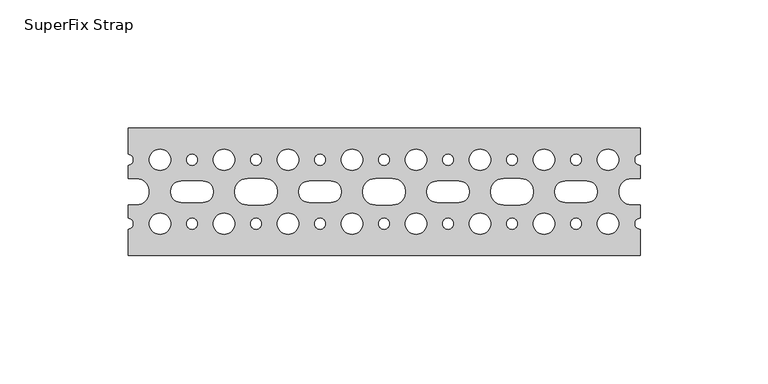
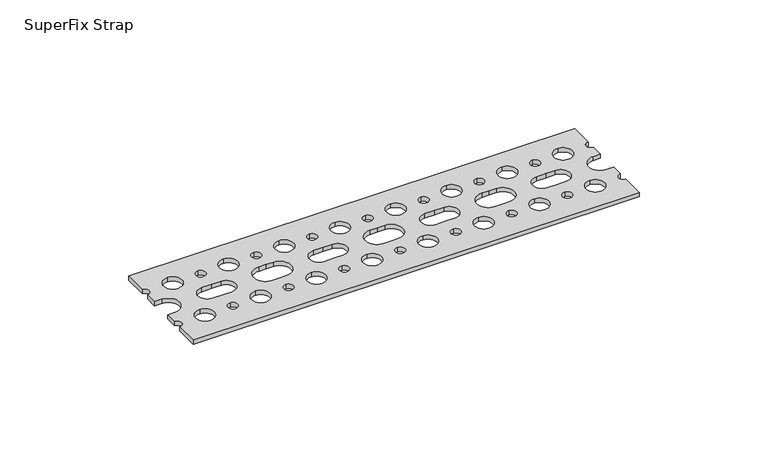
"""IFC4 building model written with IfcOpenShell, lengths in millimetres: valve geometry, Superfix Strap : SuperFix Strap."""

from ifc_helpers import new_model, si_unit, point, frame_2d, origin, origin_with_axes, place, context, project, spatial, polyline, circle_curve, trimmed, segment, composite_curve, outline, extrude, source, transform, mapped, element, save


def superfix_strap_981cfdac(model_context):
    return source(origin(), model_context, "Body", "SweptSolid", [
        extrude(outline(composite_curve([segment(polyline([(100.0, -25.0), (-100.0, -25.0), (-100.0, -14.65)]), True, "CONTINUOUS"), segment(trimmed(circle_curve(frame_2d((-100.0, -12.5)), 2.15), [point((-100.0, -14.65))], [point((-100.0, -10.35))], True, "CARTESIAN"), True, "CONTINUOUS"), segment(polyline([(-100.0, -10.35), (-100.0, -5.15), (-96.75, -5.15)]), True, "CONTINUOUS"), segment(trimmed(circle_curve(frame_2d((-96.75, 0.0)), 5.15), [point((-96.75, -5.15))], [point((-96.75, 5.15))], True, "CARTESIAN"), True, "CONTINUOUS"), segment(polyline([(-96.75, 5.15), (-100.0, 5.15), (-100.0, 10.35)]), True, "CONTINUOUS"), segment(trimmed(circle_curve(frame_2d((-100.0, 12.5)), 2.15), [point((-100.0, 10.35))], [point((-100.0, 14.65))], True, "CARTESIAN"), True, "CONTINUOUS"), segment(polyline([(-100.0, 14.65), (-100.0, 25.0), (100.0, 25.0), (100.0, 14.65)]), True, "CONTINUOUS"), segment(trimmed(circle_curve(frame_2d((100.0, 12.5)), 2.15), [point((100.0, 14.65))], [point((100.0, 10.35))], True, "CARTESIAN"), True, "CONTINUOUS"), segment(polyline([(100.0, 10.35), (100.0, 5.15), (96.75, 5.15)]), True, "CONTINUOUS"), segment(trimmed(circle_curve(frame_2d((96.75, 0.0)), 5.15), [point((96.75, 5.15))], [point((96.75, -5.15))], True, "CARTESIAN"), True, "CONTINUOUS"), segment(polyline([(96.75, -5.15), (100.0, -5.15), (100.0, -10.35)]), True, "CONTINUOUS"), segment(trimmed(circle_curve(frame_2d((100.0, -12.5)), 2.15), [point((100.0, -10.35))], [point((100.0, -14.65))], True, "CARTESIAN"), True, "CONTINUOUS"), segment(polyline([(100.0, -14.65), (100.0, -25.0)]), True, "CONTINUOUS")], self_intersect=False), holes=[composite_curve([segment(polyline([(25.0, 4.15), (20.75, 4.15)]), True, "CONTINUOUS"), segment(trimmed(circle_curve(frame_2d((20.75, 0.0)), 4.15), [point((20.75, 4.15))], [point((20.75, -4.15))], True, "CARTESIAN"), True, "CONTINUOUS"), segment(polyline([(20.75, -4.15), (25.0, -4.15), (29.25, -4.15)]), True, "CONTINUOUS"), segment(trimmed(circle_curve(frame_2d((29.25, 0.0)), 4.15), [point((29.25, -4.15))], [point((29.25, 4.15))], True, "CARTESIAN"), True, "CONTINUOUS"), segment(polyline([(29.25, 4.15), (25.0, 4.15)]), True, "CONTINUOUS")], self_intersect=False), composite_curve([segment(polyline([(0.0, 5.15), (-3.25, 5.15)]), True, "CONTINUOUS"), segment(trimmed(circle_curve(frame_2d((-3.25, 0.0)), 5.15), [point((-3.25, 5.15))], [point((-3.25, -5.15))], True, "CARTESIAN"), True, "CONTINUOUS"), segment(polyline([(-3.25, -5.15), (0.0, -5.15), (3.25, -5.15)]), True, "CONTINUOUS"), segment(trimmed(circle_curve(frame_2d((3.25, 0.0)), 5.15), [point((3.25, -5.15))], [point((3.25, 5.15))], True, "CARTESIAN"), True, "CONTINUOUS"), segment(polyline([(3.25, 5.15), (0.0, 5.15)]), True, "CONTINUOUS")], self_intersect=False), composite_curve([segment(trimmed(circle_curve(frame_2d((0.0, 12.5)), 2.15), [point((0.0, 14.65))], [point((0.0, 10.35))], True, "CARTESIAN"), True, "CONTINUOUS"), segment(trimmed(circle_curve(frame_2d((0.0, 12.5)), 2.15), [point((0.0, 10.35))], [point((0.0, 14.65))], True, "CARTESIAN"), True, "CONTINUOUS")], self_intersect=False), composite_curve([segment(trimmed(circle_curve(frame_2d((25.0, 12.5)), 2.15), [point((25.0, 14.65))], [point((25.0, 10.35))], True, "CARTESIAN"), True, "CONTINUOUS"), segment(trimmed(circle_curve(frame_2d((25.0, 12.5)), 2.15), [point((25.0, 10.35))], [point((25.0, 14.65))], True, "CARTESIAN"), True, "CONTINUOUS")], self_intersect=False), composite_curve([segment(trimmed(circle_curve(frame_2d((25.0, -12.5)), 2.15), [point((25.0, -10.35))], [point((25.0, -14.65))], True, "CARTESIAN"), True, "CONTINUOUS"), segment(trimmed(circle_curve(frame_2d((25.0, -12.5)), 2.15), [point((25.0, -14.65))], [point((25.0, -10.35))], True, "CARTESIAN"), True, "CONTINUOUS")], self_intersect=False), composite_curve([segment(trimmed(circle_curve(frame_2d((0.0, -12.5)), 2.15), [point((0.0, -10.35))], [point((0.0, -14.65))], True, "CARTESIAN"), True, "CONTINUOUS"), segment(trimmed(circle_curve(frame_2d((0.0, -12.5)), 2.15), [point((0.0, -14.65))], [point((0.0, -10.35))], True, "CARTESIAN"), True, "CONTINUOUS")], self_intersect=False), composite_curve([segment(trimmed(circle_curve(frame_2d((12.5, 12.5)), 4.15), [point((12.5, 16.65))], [point((12.5, 8.35))], True, "CARTESIAN"), True, "CONTINUOUS"), segment(trimmed(circle_curve(frame_2d((12.5, 12.5)), 4.15), [point((12.5, 8.35))], [point((12.5, 16.65))], True, "CARTESIAN"), True, "CONTINUOUS")], self_intersect=False), composite_curve([segment(trimmed(circle_curve(frame_2d((12.5, -12.5)), 4.15), [point((12.5, -8.35))], [point((12.5, -16.65))], True, "CARTESIAN"), True, "CONTINUOUS"), segment(trimmed(circle_curve(frame_2d((12.5, -12.5)), 4.15), [point((12.5, -16.65))], [point((12.5, -8.35))], True, "CARTESIAN"), True, "CONTINUOUS")], self_intersect=False), composite_curve([segment(trimmed(circle_curve(frame_2d((37.5, 12.5)), 4.15), [point((37.5, 16.65))], [point((37.5, 8.35))], True, "CARTESIAN"), True, "CONTINUOUS"), segment(trimmed(circle_curve(frame_2d((37.5, 12.5)), 4.15), [point((37.5, 8.35))], [point((37.5, 16.65))], True, "CARTESIAN"), True, "CONTINUOUS")], self_intersect=False), composite_curve([segment(trimmed(circle_curve(frame_2d((37.5, -12.5)), 4.15), [point((37.5, -8.35))], [point((37.5, -16.65))], True, "CARTESIAN"), True, "CONTINUOUS"), segment(trimmed(circle_curve(frame_2d((37.5, -12.5)), 4.15), [point((37.5, -16.65))], [point((37.5, -8.35))], True, "CARTESIAN"), True, "CONTINUOUS")], self_intersect=False), composite_curve([segment(trimmed(circle_curve(frame_2d((-20.75, 0.0)), 4.15), [point((-20.75, -4.15))], [point((-20.75, 4.15))], True, "CARTESIAN"), True, "CONTINUOUS"), segment(polyline([(-20.75, 4.15), (-25.0, 4.15), (-29.25, 4.15)]), True, "CONTINUOUS"), segment(trimmed(circle_curve(frame_2d((-29.25, 0.0)), 4.15), [point((-29.25, 4.15))], [point((-29.25, -4.15))], True, "CARTESIAN"), True, "CONTINUOUS"), segment(polyline([(-29.25, -4.15), (-25.0, -4.15), (-20.75, -4.15)]), True, "CONTINUOUS")], self_intersect=False), composite_curve([segment(trimmed(circle_curve(frame_2d((-25.0, 12.5)), 2.15), [point((-25.0, 14.65))], [point((-25.0, 10.35))], True, "CARTESIAN"), True, "CONTINUOUS"), segment(trimmed(circle_curve(frame_2d((-25.0, 12.5)), 2.15), [point((-25.0, 10.35))], [point((-25.0, 14.65))], True, "CARTESIAN"), True, "CONTINUOUS")], self_intersect=False), composite_curve([segment(trimmed(circle_curve(frame_2d((-25.0, -12.5)), 2.15), [point((-25.0, -10.35))], [point((-25.0, -14.65))], True, "CARTESIAN"), True, "CONTINUOUS"), segment(trimmed(circle_curve(frame_2d((-25.0, -12.5)), 2.15), [point((-25.0, -14.65))], [point((-25.0, -10.35))], True, "CARTESIAN"), True, "CONTINUOUS")], self_intersect=False), composite_curve([segment(trimmed(circle_curve(frame_2d((-12.5, 12.5)), 4.15), [point((-12.5, 16.65))], [point((-12.5, 8.35))], True, "CARTESIAN"), True, "CONTINUOUS"), segment(trimmed(circle_curve(frame_2d((-12.5, 12.5)), 4.15), [point((-12.5, 8.35))], [point((-12.5, 16.65))], True, "CARTESIAN"), True, "CONTINUOUS")], self_intersect=False), composite_curve([segment(trimmed(circle_curve(frame_2d((-12.5, -12.5)), 4.15), [point((-12.5, -8.35))], [point((-12.5, -16.65))], True, "CARTESIAN"), True, "CONTINUOUS"), segment(trimmed(circle_curve(frame_2d((-12.5, -12.5)), 4.15), [point((-12.5, -16.65))], [point((-12.5, -8.35))], True, "CARTESIAN"), True, "CONTINUOUS")], self_intersect=False), composite_curve([segment(polyline([(46.75, -5.15), (50.0, -5.15), (53.25, -5.15)]), True, "CONTINUOUS"), segment(trimmed(circle_curve(frame_2d((53.25, 0.0)), 5.15), [point((53.25, -5.15))], [point((53.25, 5.15))], True, "CARTESIAN"), True, "CONTINUOUS"), segment(polyline([(53.25, 5.15), (50.0, 5.15), (46.75, 5.15)]), True, "CONTINUOUS"), segment(trimmed(circle_curve(frame_2d((46.75, 0.0)), 5.15), [point((46.75, 5.15))], [point((46.75, -5.15))], True, "CARTESIAN"), True, "CONTINUOUS")], self_intersect=False), composite_curve([segment(trimmed(circle_curve(frame_2d((50.0, 12.5)), 2.15), [point((50.0, 14.65))], [point((50.0, 10.35))], True, "CARTESIAN"), True, "CONTINUOUS"), segment(trimmed(circle_curve(frame_2d((50.0, 12.5)), 2.15), [point((50.0, 10.35))], [point((50.0, 14.65))], True, "CARTESIAN"), True, "CONTINUOUS")], self_intersect=False), composite_curve([segment(trimmed(circle_curve(frame_2d((50.0, -12.5)), 2.15), [point((50.0, -10.35))], [point((50.0, -14.65))], True, "CARTESIAN"), True, "CONTINUOUS"), segment(trimmed(circle_curve(frame_2d((50.0, -12.5)), 2.15), [point((50.0, -14.65))], [point((50.0, -10.35))], True, "CARTESIAN"), True, "CONTINUOUS")], self_intersect=False), composite_curve([segment(trimmed(circle_curve(frame_2d((-37.5, 12.5)), 4.15), [point((-37.5, 16.65))], [point((-37.5, 8.35))], True, "CARTESIAN"), True, "CONTINUOUS"), segment(trimmed(circle_curve(frame_2d((-37.5, 12.5)), 4.15), [point((-37.5, 8.35))], [point((-37.5, 16.65))], True, "CARTESIAN"), True, "CONTINUOUS")], self_intersect=False), composite_curve([segment(trimmed(circle_curve(frame_2d((-37.5, -12.5)), 4.15), [point((-37.5, -8.35))], [point((-37.5, -16.65))], True, "CARTESIAN"), True, "CONTINUOUS"), segment(trimmed(circle_curve(frame_2d((-37.5, -12.5)), 4.15), [point((-37.5, -16.65))], [point((-37.5, -8.35))], True, "CARTESIAN"), True, "CONTINUOUS")], self_intersect=False), composite_curve([segment(trimmed(circle_curve(frame_2d((79.25, 0.0)), 4.15), [point((79.25, -4.15))], [point((79.25, 4.15))], True, "CARTESIAN"), True, "CONTINUOUS"), segment(polyline([(79.25, 4.15), (75.0, 4.15), (70.75, 4.15)]), True, "CONTINUOUS"), segment(trimmed(circle_curve(frame_2d((70.75, 0.0)), 4.15), [point((70.75, 4.15))], [point((70.75, -4.15))], True, "CARTESIAN"), True, "CONTINUOUS"), segment(polyline([(70.75, -4.15), (75.0, -4.15), (79.25, -4.15)]), True, "CONTINUOUS")], self_intersect=False), composite_curve([segment(trimmed(circle_curve(frame_2d((75.0, 12.5)), 2.15), [point((75.0, 14.65))], [point((75.0, 10.35))], True, "CARTESIAN"), True, "CONTINUOUS"), segment(trimmed(circle_curve(frame_2d((75.0, 12.5)), 2.15), [point((75.0, 10.35))], [point((75.0, 14.65))], True, "CARTESIAN"), True, "CONTINUOUS")], self_intersect=False), composite_curve([segment(trimmed(circle_curve(frame_2d((75.0, -12.5)), 2.15), [point((75.0, -10.35))], [point((75.0, -14.65))], True, "CARTESIAN"), True, "CONTINUOUS"), segment(trimmed(circle_curve(frame_2d((75.0, -12.5)), 2.15), [point((75.0, -14.65))], [point((75.0, -10.35))], True, "CARTESIAN"), True, "CONTINUOUS")], self_intersect=False), composite_curve([segment(trimmed(circle_curve(frame_2d((87.5, 12.5)), 4.15), [point((87.5, 16.65))], [point((87.5, 8.35))], True, "CARTESIAN"), True, "CONTINUOUS"), segment(trimmed(circle_curve(frame_2d((87.5, 12.5)), 4.15), [point((87.5, 8.35))], [point((87.5, 16.65))], True, "CARTESIAN"), True, "CONTINUOUS")], self_intersect=False), composite_curve([segment(trimmed(circle_curve(frame_2d((87.5, -12.5)), 4.15), [point((87.5, -8.35))], [point((87.5, -16.65))], True, "CARTESIAN"), True, "CONTINUOUS"), segment(trimmed(circle_curve(frame_2d((87.5, -12.5)), 4.15), [point((87.5, -16.65))], [point((87.5, -8.35))], True, "CARTESIAN"), True, "CONTINUOUS")], self_intersect=False), composite_curve([segment(trimmed(circle_curve(frame_2d((62.5, 12.5)), 4.15), [point((62.5, 16.65))], [point((62.5, 8.35))], True, "CARTESIAN"), True, "CONTINUOUS"), segment(trimmed(circle_curve(frame_2d((62.5, 12.5)), 4.15), [point((62.5, 8.35))], [point((62.5, 16.65))], True, "CARTESIAN"), True, "CONTINUOUS")], self_intersect=False), composite_curve([segment(trimmed(circle_curve(frame_2d((62.5, -12.5)), 4.15), [point((62.5, -8.35))], [point((62.5, -16.65))], True, "CARTESIAN"), True, "CONTINUOUS"), segment(trimmed(circle_curve(frame_2d((62.5, -12.5)), 4.15), [point((62.5, -16.65))], [point((62.5, -8.35))], True, "CARTESIAN"), True, "CONTINUOUS")], self_intersect=False), composite_curve([segment(polyline([(-75.0, 4.15), (-79.25, 4.15)]), True, "CONTINUOUS"), segment(trimmed(circle_curve(frame_2d((-79.25, 0.0)), 4.15), [point((-79.25, 4.15))], [point((-79.25, -4.15))], True, "CARTESIAN"), True, "CONTINUOUS"), segment(polyline([(-79.25, -4.15), (-75.0, -4.15), (-70.75, -4.15)]), True, "CONTINUOUS"), segment(trimmed(circle_curve(frame_2d((-70.75, 0.0)), 4.15), [point((-70.75, -4.15))], [point((-70.75, 4.15))], True, "CARTESIAN"), True, "CONTINUOUS"), segment(polyline([(-70.75, 4.15), (-75.0, 4.15)]), True, "CONTINUOUS")], self_intersect=False), composite_curve([segment(trimmed(circle_curve(frame_2d((-75.0, 12.5)), 2.15), [point((-75.0, 14.65))], [point((-75.0, 10.35))], True, "CARTESIAN"), True, "CONTINUOUS"), segment(trimmed(circle_curve(frame_2d((-75.0, 12.5)), 2.15), [point((-75.0, 10.35))], [point((-75.0, 14.65))], True, "CARTESIAN"), True, "CONTINUOUS")], self_intersect=False), composite_curve([segment(trimmed(circle_curve(frame_2d((-75.0, -12.5)), 2.15), [point((-75.0, -10.35))], [point((-75.0, -14.65))], True, "CARTESIAN"), True, "CONTINUOUS"), segment(trimmed(circle_curve(frame_2d((-75.0, -12.5)), 2.15), [point((-75.0, -14.65))], [point((-75.0, -10.35))], True, "CARTESIAN"), True, "CONTINUOUS")], self_intersect=False), composite_curve([segment(trimmed(circle_curve(frame_2d((-87.5, 12.5)), 4.15), [point((-87.5, 16.65))], [point((-87.5, 8.35))], True, "CARTESIAN"), True, "CONTINUOUS"), segment(trimmed(circle_curve(frame_2d((-87.5, 12.5)), 4.15), [point((-87.5, 8.35))], [point((-87.5, 16.65))], True, "CARTESIAN"), True, "CONTINUOUS")], self_intersect=False), composite_curve([segment(trimmed(circle_curve(frame_2d((-87.5, -12.5)), 4.15), [point((-87.5, -8.35))], [point((-87.5, -16.65))], True, "CARTESIAN"), True, "CONTINUOUS"), segment(trimmed(circle_curve(frame_2d((-87.5, -12.5)), 4.15), [point((-87.5, -16.65))], [point((-87.5, -8.35))], True, "CARTESIAN"), True, "CONTINUOUS")], self_intersect=False), composite_curve([segment(trimmed(circle_curve(frame_2d((-62.5, 12.5)), 4.15), [point((-62.5, 16.65))], [point((-62.5, 8.35))], True, "CARTESIAN"), True, "CONTINUOUS"), segment(trimmed(circle_curve(frame_2d((-62.5, 12.5)), 4.15), [point((-62.5, 8.35))], [point((-62.5, 16.65))], True, "CARTESIAN"), True, "CONTINUOUS")], self_intersect=False), composite_curve([segment(trimmed(circle_curve(frame_2d((-62.5, -12.5)), 4.15), [point((-62.5, -8.35))], [point((-62.5, -16.65))], True, "CARTESIAN"), True, "CONTINUOUS"), segment(trimmed(circle_curve(frame_2d((-62.5, -12.5)), 4.15), [point((-62.5, -16.65))], [point((-62.5, -8.35))], True, "CARTESIAN"), True, "CONTINUOUS")], self_intersect=False), composite_curve([segment(polyline([(-53.25, -5.15), (-50.0, -5.15), (-46.75, -5.15)]), True, "CONTINUOUS"), segment(trimmed(circle_curve(frame_2d((-46.75, 0.0)), 5.15), [point((-46.75, -5.15))], [point((-46.75, 5.15))], True, "CARTESIAN"), True, "CONTINUOUS"), segment(polyline([(-46.75, 5.15), (-50.0, 5.15), (-53.25, 5.15)]), True, "CONTINUOUS"), segment(trimmed(circle_curve(frame_2d((-53.25, 0.0)), 5.15), [point((-53.25, 5.15))], [point((-53.25, -5.15))], True, "CARTESIAN"), True, "CONTINUOUS")], self_intersect=False), composite_curve([segment(trimmed(circle_curve(frame_2d((-50.0, 12.5)), 2.15), [point((-50.0, 14.65))], [point((-50.0, 10.35))], True, "CARTESIAN"), True, "CONTINUOUS"), segment(trimmed(circle_curve(frame_2d((-50.0, 12.5)), 2.15), [point((-50.0, 10.35))], [point((-50.0, 14.65))], True, "CARTESIAN"), True, "CONTINUOUS")], self_intersect=False), composite_curve([segment(trimmed(circle_curve(frame_2d((-50.0, -12.5)), 2.15), [point((-50.0, -10.35))], [point((-50.0, -14.65))], True, "CARTESIAN"), True, "CONTINUOUS"), segment(trimmed(circle_curve(frame_2d((-50.0, -12.5)), 2.15), [point((-50.0, -14.65))], [point((-50.0, -10.35))], True, "CARTESIAN"), True, "CONTINUOUS")], self_intersect=False)]), origin_with_axes(), (0.0, 0.0, 1.0), 2.0),
    ])


if __name__ == "__main__":
    model = new_model("IFC4")
    model_context = context("Model", 3, world=origin())
    ifc_project = project(units=[si_unit("LENGTHUNIT", "METRE", prefix="MILLI")], contexts=[model_context])
    site = spatial("IfcSite", under=ifc_project)
    building = spatial("IfcBuilding", under=site)
    placement = place(None, origin())
    superfix_strap_shape = superfix_strap_981cfdac(model_context)
    element("IfcValve", 1, ObjectType="Superfix Strap : SuperFix Strap", at=placement, inside=building, context=model_context, shape_type="MappedRepresentation", body=[
        mapped(superfix_strap_shape, transform((0.0, 0.0, 0.0), x_axis=(1.0, 0.0, 0.0), y_axis=(0.0, 1.0, 0.0), z_axis=(0.0, 0.0, 1.0))),
    ])
    save(model, "model.ifc")
